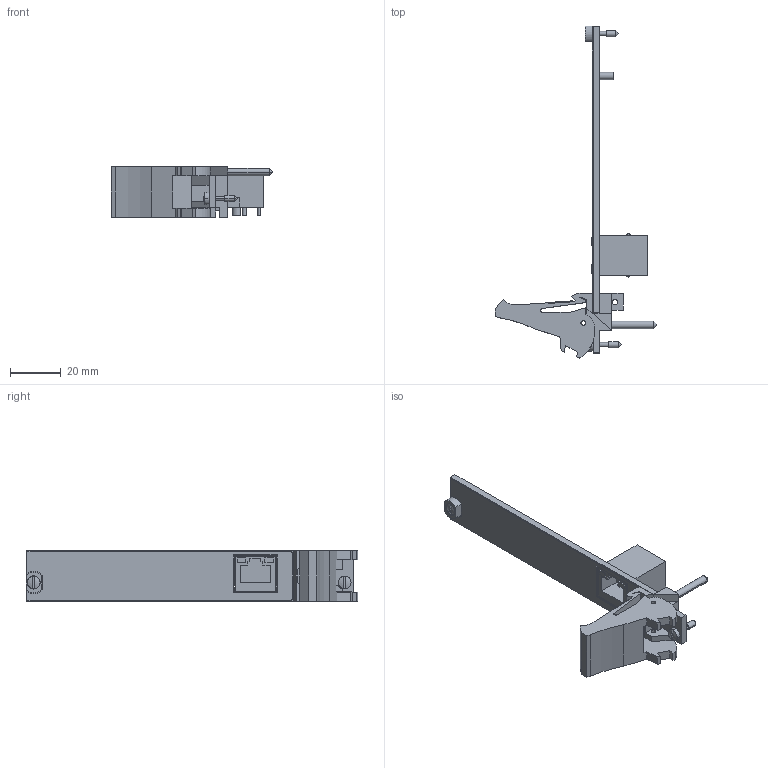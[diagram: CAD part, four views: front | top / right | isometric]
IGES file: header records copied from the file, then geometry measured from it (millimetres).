
Start section:  PTC IGES file: cu_pxi-8231.igs
Global section: file name: cu_pxi-8231.igs; native system: Pro/ENGINEER by Parametric Technology Corporation; preprocessor: 2010230; author: talbott; organization: Unknown; date: 20120412.093950; units: inch
Bounding box: 63.53 x 130.62 x 20.02 mm (x, y, z)
Surface area: 13601.3 mm2 (no closed solid volume)
Topology: 0 solids, 0 shells, 256 faces, 1368 edges, 1364 vertices
Faces by surface type: bspline 179, revolution 77
